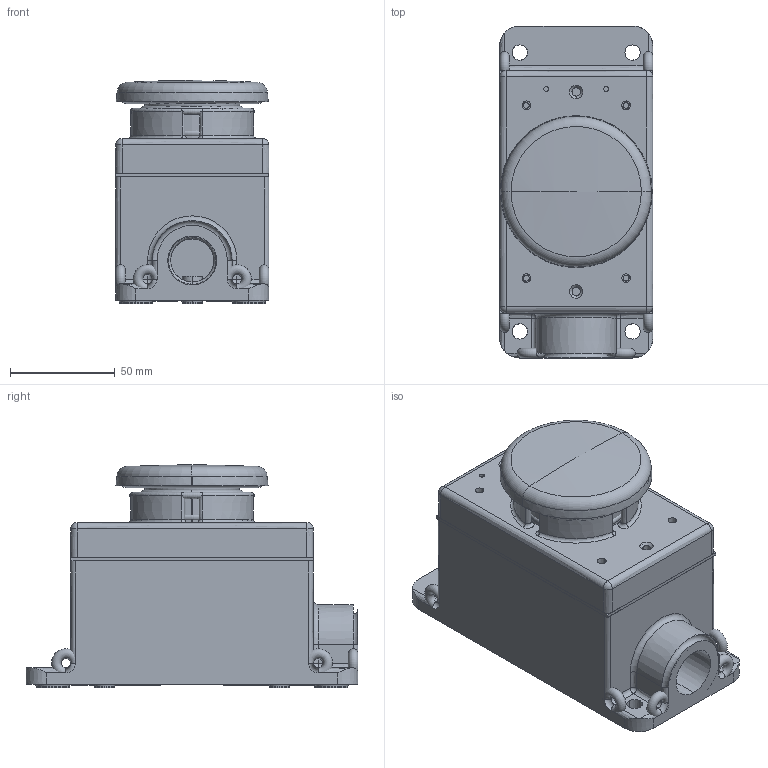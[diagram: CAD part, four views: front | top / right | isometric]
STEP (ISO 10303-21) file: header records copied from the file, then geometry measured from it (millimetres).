
FILE_DESCRIPTION((''),'2;1');
FILE_NAME('ASM0003_ASM','2014-02-04T',('kjholley'),('Rockwell Automation'),'PRO/ENGINEER BY PARAMETRIC TECHNOLOGY CORPORATION, 2012480','PRO/ENGINEER BY PARAMETRIC TECHNOLOGY CORPORATION, 2012480','');
FILE_SCHEMA(('CONFIG_CONTROL_DESIGN'));
Products named in the file (1): ASM0003_ASM
Bounding box: 73.46 x 158.5 x 106.57 mm (x, y, z)
Surface area: 163459.6 mm2 (no closed solid volume)
Topology: 0 solids, 0 shells, 637 faces, 3076 edges, 3019 vertices
Faces by surface type: bspline 514, torus 103, sphere 20
Entity records: 52284 total; most frequent: CARTESIAN_POINT 24122, DIRECTION 4866, TRIMMED_CURVE 3865, VECTOR 3110, LINE 3110, DEFINITIONAL_REPRESENTATION 2982, PCURVE 2982, COMPOSITE_CURVE_SEGMENT 2982
